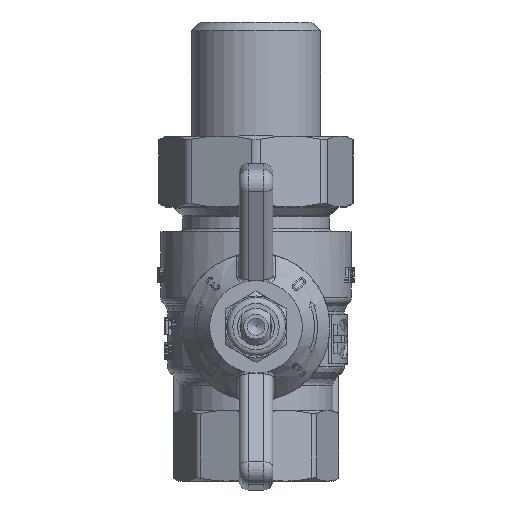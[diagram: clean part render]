
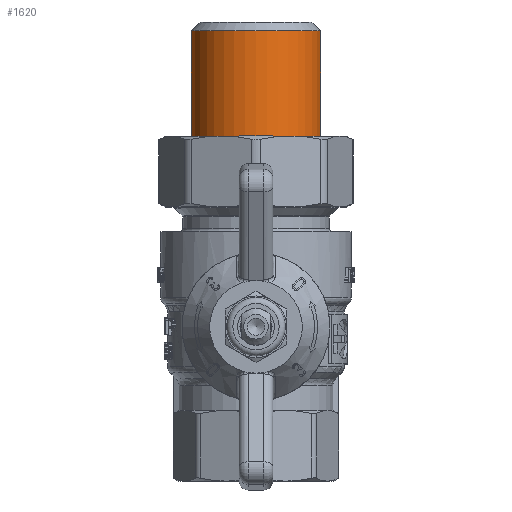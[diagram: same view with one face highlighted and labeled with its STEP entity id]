
A CAD part, top view. The second image highlights one B-rep face of the part: STEP entity #1620.
In plain terms, the highlighted cylindrical face has radius 10.477 mm (diameter 20.955 mm), a full revolution.
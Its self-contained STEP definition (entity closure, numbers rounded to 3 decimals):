
#1620=ADVANCED_FACE('',(#13872,#13874),#13876,.T.);
#13872=FACE_OUTER_BOUND('',#13873,.T.);
#13873=EDGE_LOOP('',(#25400));
#13874=FACE_OUTER_BOUND('',#13875,.T.);
#13875=EDGE_LOOP('',(#25401));
#13876=CYLINDRICAL_SURFACE('',#13877,10.478);
#13877=AXIS2_PLACEMENT_3D('',#13878,#13879,#13880);
#13878=CARTESIAN_POINT('',(0.,22.282,0.));
#13879=DIRECTION('',(0.,1.,0.));
#13880=DIRECTION('',(-1.,0.,0.));
#25400=ORIENTED_EDGE('',*,*,#31438,.F.);
#25401=ORIENTED_EDGE('',*,*,#31416,.F.);
#31416=EDGE_CURVE('',#39798,#39798,#39799,.F.);
#31438=EDGE_CURVE('',#39822,#39822,#39823,.T.);
#39798=VERTEX_POINT('',#67899);
#39799=CIRCLE('',#67900,10.478);
#39822=VERTEX_POINT('',#67969);
#39823=CIRCLE('',#67970,10.478);
#67899=CARTESIAN_POINT('',(-10.478,28.982,0.));
#67900=AXIS2_PLACEMENT_3D('',#67901,#67902,#67903);
#67901=CARTESIAN_POINT('',(0.,28.982,0.));
#67902=DIRECTION('',(0.,1.,0.));
#67903=DIRECTION('',(-1.,0.,0.));
#67969=CARTESIAN_POINT('',(-10.478,48.082,0.));
#67970=AXIS2_PLACEMENT_3D('',#67971,#67972,#67973);
#67971=CARTESIAN_POINT('',(0.,48.082,0.));
#67972=DIRECTION('',(0.,1.,0.));
#67973=DIRECTION('',(-1.,0.,0.));
